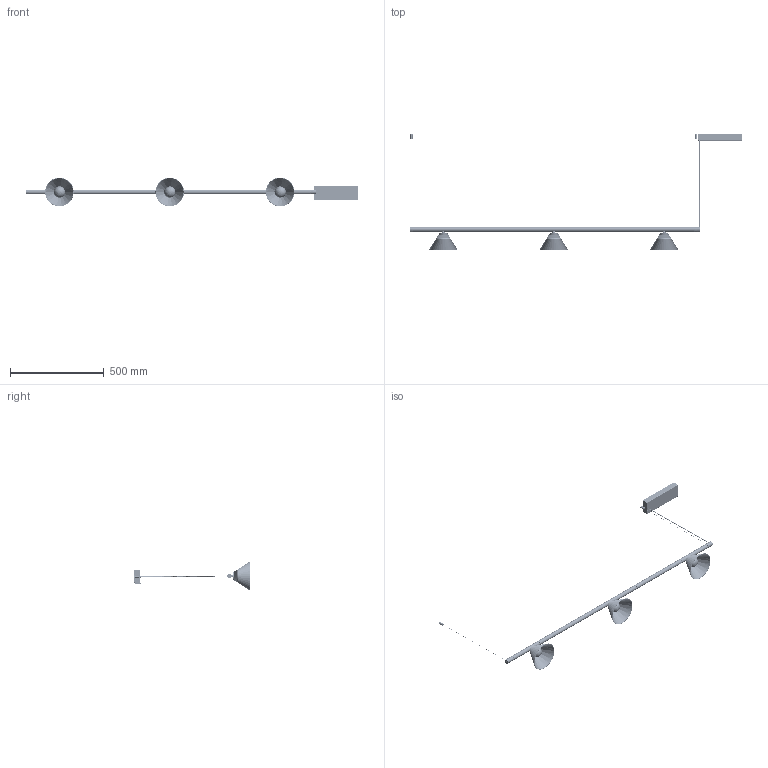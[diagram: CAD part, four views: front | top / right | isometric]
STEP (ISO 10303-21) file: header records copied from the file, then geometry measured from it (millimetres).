
FILE_DESCRIPTION (( 'STEP AP214' ), '1' );
FILE_NAME ('OVAL CONE 15 surf.STEP', '2024-03-15T13:12:54', ( '' ), ( '' ), 'SwSTEP 2.0', 'SolidWorks 2024', '' );
FILE_SCHEMA (( 'AUTOMOTIVE_DESIGN' ));
Length unit declared in the file: millimetre
Products named in the file (41): 04-23DM05-CAMPANA CONE(V1.1)_1; Tapon Tapa_2; DISIPADOR ALUMINIO BALO Bola Ø60_para bola Ø60; BOLA CRISTAL OPAL MATE Ø60 CON ROSCA_60; Conector Molex Hembra 43020; Tapa Unión-Final V5_V5.1 Colgante Union ; OVAL CONE 15 surf; Difusor Negro Oval_0.47m; 04-23DM01-Adaptador_Caja_DM01.3; Taco cuerpo Micro; Taco Micro_Ø10 M10*5; Tuerca Hembra Conector Jack; Ensamble Tapa + Tope_Con Conector; Prisionero STEAB M4x4_8; Rosca Bola_chapa galbanizada(inglass); Tija Tiny_Inyección ; Perfil Micro V4_1.5m; Jack_Scpre; 04-23DM02-Adaptador_Tapa(V1.2)_24V; Cable acero_0.5m; Bola_Ø60xT3; Ensamble Tensor Micro_Con Cable; CJ02-BALO 60_Surface Ø60; Difusor Negro Oval_0.1m; 04-23DM03-Tope_Adaptador_1.3; CUI_DEVICES_PJ-005B_Ø2.5; Chapa Floron Micro_Techo; Tapa Alimentación Perfil_SCPRE; CJ01-ENS_Adaptador 24V_Proyector; Tapa Micro V5_V5.1; Regulador Cable Ø0.6 (Bereta LT1007.0601); Remache 3 Cabeza CONICA_remachado; Imán_12d*5; Driver Entity EN1689; Ensamble Floron Superficie_Colgante; CJ03-ENS-CAMPANA CONE(V1.1); Cable_VISUAL Alimentación Micro; Kgp 100w-24V; Embellecedor Floron Micro_Micro Colgante; Ensamble Conector Jack Unión_Alimentación Colgante SCPRE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
Assembly tree (50 placements, depth 5):
  OVAL CONE 15 surf
    Perfil Micro V4_1.5m
    CJ03-ENS-CAMPANA CONE(V1.1)  x3
      04-23DM05-CAMPANA CONE(V1.1)_1
      CJ02-BALO 60_Surface Ø60
        DISIPADOR ALUMINIO BALO Bola Ø60_para bola Ø60
        BOLA CRISTAL OPAL MATE Ø60 CON ROSCA_60
          Bola_Ø60xT3
          Rosca Bola_chapa galbanizada(inglass)
      CJ01-ENS_Adaptador 24V_Proyector
        04-23DM01-Adaptador_Caja_DM01.3
        04-23DM02-Adaptador_Tapa(V1.2)_24V
        Conector Molex Hembra 43020
        Driver Entity EN1689
        04-23DM03-Tope_Adaptador_1.3  x2
        Tija Tiny_Inyección 
    Difusor Negro Oval_0.1m  x2
    Difusor Negro Oval_0.47m  x2
    Ensamble Tapa + Tope_Con Conector  x2
      Tapa Micro V5_V5.1
      CUI_DEVICES_PJ-005B_Ø2.5
      Tuerca Hembra Conector Jack
    Ensamble Tensor Micro_Con Cable  x2
      Taco Micro_Ø10 M10*5
      Taco cuerpo Micro
      Regulador Cable Ø0.6 (Bereta LT1007.0601)
      Cable acero_0.5m
    Tapa Unión-Final V5_V5.1 Colgante Union   x2
    Ensamble Floron Superficie_Colgante
      Kgp 100w-24V
      Embellecedor Floron Micro_Micro Colgante
      Chapa Floron Micro_Techo
      Remache 3 Cabeza CONICA_remachado  x2
      Imán_12d*5  x2
      Essentra Pasamuro 498025
    Ensamble Conector Jack Unión_Alimentación Colgante SCPRE
      Cable_VISUAL Alimentación Micro
      Jack_Scpre
      Tapa Alimentación Perfil_SCPRE
      Prisionero STEAB M4x4_8
    Tapon Tapa_2
Bounding box: 1774.44 x 619.27 x 153.01 mm (x, y, z)
Volume: 744264.9 mm3; surface area: 909033.2 mm2
Topology: 74 solids, 76 shells, 7630 faces, 19347 edges, 12022 vertices
Faces by surface type: plane 2993, cylinder 2179, cone 1437, bspline 552, torus 341, sphere 128
Entity records: 162536 total; most frequent: CARTESIAN_POINT 66838, ORIENTED_EDGE 20642, DIRECTION 18711, EDGE_CURVE 10321, VERTEX_POINT 6574, VECTOR 6515, LINE 6515, AXIS2_PLACEMENT_3D 6098
